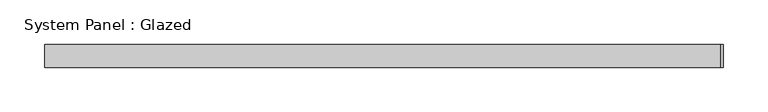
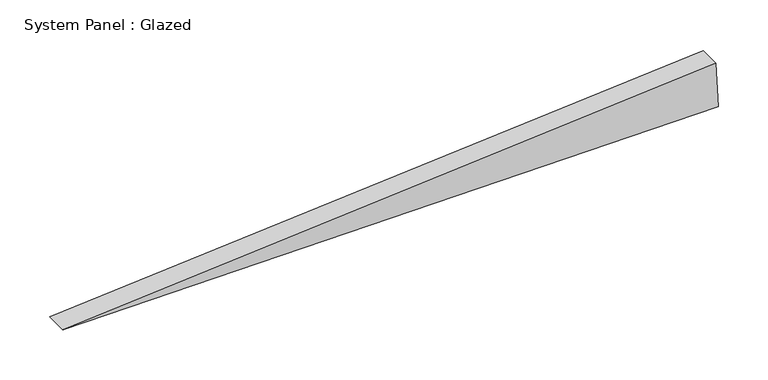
"""IFC4 building model written with IfcOpenShell, lengths in millimetres: plate geometry, System Panel : Glazed."""

import ifcopenshell
import ifcopenshell.guid

model = None  # the IFC model being written
_history = None  # IfcOwnerHistory: only IFC2X3 demands one
_inside = {}  # id of a spatial element -> (the spatial element, [elements in it])
_under = {}  # id of a project, library or spatial element -> (it, [spatial elements below it])
_declared = {}  # id of a project -> (the project, [libraries it declares])
_typed = {}  # id of a type object -> (the type object, [elements of that type])
_made_of = {}  # id of a material, layer set ... -> (it, [elements and type objects made of it])


def new_model(schema):
    """Start an empty IFC model of exactly this schema.

    Asked for "IFC4X3", IfcOpenShell would pick the latest addendum, in which some entities
    have other attributes; the version numbers below select the first issue.
    IFC2X3 requires an IfcOwnerHistory on every rooted entity: one is made here for all.
    """
    global model, _history
    if schema == "IFC4X3":
        model = ifcopenshell.file(schema_version=(4, 3, 0, 0))
    else:
        model = ifcopenshell.file(schema=schema)
    _inside.clear()
    _under.clear()
    _declared.clear()
    _typed.clear()
    _made_of.clear()
    _history = None
    if model.schema == "IFC2X3":
        org = make("IfcOrganization", Name="unknown")
        user = make(
            "IfcPersonAndOrganization",
            ThePerson=make("IfcPerson", FamilyName="unknown"),
            TheOrganization=org,
        )
        app = make(
            "IfcApplication",
            ApplicationDeveloper=org,
            Version="unknown",
            ApplicationFullName="unknown",
            ApplicationIdentifier="unknown",
        )
        _history = make(
            "IfcOwnerHistory",
            OwningUser=user,
            OwningApplication=app,
            ChangeAction="ADDED",
            CreationDate=0,
        )
    return model


def make(cls, **values):
    """One entity of the class cls with the attributes given. An attribute that is None is left unset."""
    return model.create_entity(
        cls, **{name: value for name, value in values.items() if value is not None}
    )


def rooted(cls, **values):
    """An entity with a GlobalId (a new one), such as an element, a storey or a relation."""
    return make(cls, GlobalId=ifcopenshell.guid.new(), OwnerHistory=_history, **values)


def si_unit(unit_type, name, prefix=None):
    """IfcSIUnit, for example si_unit("LENGTHUNIT", "METRE", prefix="MILLI")."""
    return make("IfcSIUnit", UnitType=unit_type, Prefix=prefix, Name=name)


def assignment(units):
    """IfcUnitAssignment: the units of a project."""
    return None if units is None else make("IfcUnitAssignment", Units=units)


def point(xyz):
    """IfcCartesianPoint."""
    return None if xyz is None else make("IfcCartesianPoint", Coordinates=xyz)


def direction(xyz):
    """IfcDirection."""
    return None if xyz is None else make("IfcDirection", DirectionRatios=xyz)


def frame(location, z_axis=None, x_axis=None):
    """IfcAxis2Placement3D, a coordinate frame: its origin and axes. An axis left out is left unset."""
    return make(
        "IfcAxis2Placement3D",
        Location=point(location),
        Axis=direction(z_axis),
        RefDirection=direction(x_axis),
    )


def origin():
    """The frame at (0, 0, 0) with its axes left unset."""
    return frame((0.0, 0.0, 0.0))


def place(relative_to, where):
    """IfcLocalPlacement: puts the frame where relative to a parent placement (None: the world)."""
    return make(
        "IfcLocalPlacement", PlacementRelTo=relative_to, RelativePlacement=where
    )


def context(
    kind, dimensions, precision=None, world=None, true_north=None, identifier=None
):
    """IfcGeometricRepresentationContext, for example the 3D "Model" context."""
    return make(
        "IfcGeometricRepresentationContext",
        ContextIdentifier=identifier,
        ContextType=kind,
        CoordinateSpaceDimension=dimensions,
        Precision=precision,
        WorldCoordinateSystem=world,
        TrueNorth=true_north,
    )


def project(units=None, contexts=None):
    """IfcProject with its units and contexts."""
    return rooted(
        "IfcProject",
        Name="project",
        RepresentationContexts=contexts,
        UnitsInContext=assignment(units),
    )


def spatial(cls, under=None, at=None, **own):
    """A site, building, storey or space (cls), placed at a placement, below another one or the project."""
    s = rooted(cls, ObjectPlacement=at, **own)
    if under is not None:
        _under.setdefault(under.id(), (under, []))[1].append(s)
    return s


def faces_of(points, faces, orient=None, outer=None):
    """IfcFace entities. A face is a list of loops; a loop is a list of indices into points, from 0.

    orient and outer hold one flag for each loop. By default every Orientation is true, the
    first loop of a face is its IfcFaceOuterBound and the others are IfcFaceBound.
    """
    made = []
    for i, loops in enumerate(faces):
        bounds = []
        for j, loop in enumerate(loops):
            is_outer = j == 0 if outer is None else outer[i][j]
            bounds.append(
                make(
                    "IfcFaceOuterBound" if is_outer else "IfcFaceBound",
                    Bound=make("IfcPolyLoop", Polygon=[points[k] for k in loop]),
                    Orientation=True if orient is None else orient[i][j],
                )
            )
        made.append(make("IfcFace", Bounds=bounds))
    return made


def faceted_brep(points, faces, orient=None, outer=None, voids=None):
    """IfcFacetedBrep: a solid bounded by flat faces; with voids (closed shells), ...WithVoids."""
    shared = [point(p) for p in points]
    hull = make("IfcClosedShell", CfsFaces=faces_of(shared, faces, orient, outer))
    if voids is None:
        return make("IfcFacetedBrep", Outer=hull)
    return make(
        "IfcFacetedBrepWithVoids",
        Outer=hull,
        Voids=[
            make(cls, CfsFaces=faces_of(shared, fs, o, b)) for cls, fs, o, b in voids
        ],
    )


def shape(context_of_items, identifier, shape_type, items):
    """IfcShapeRepresentation: the items that make up one representation, for example the "Body"."""
    return make(
        "IfcShapeRepresentation",
        ContextOfItems=context_of_items,
        RepresentationIdentifier=identifier,
        RepresentationType=shape_type,
        Items=items,
    )


def source(mapping_origin, context_of_items, identifier, shape_type, items):
    """IfcRepresentationMap: a shape defined once, which mapped items show again and again."""
    return make(
        "IfcRepresentationMap",
        MappingOrigin=mapping_origin,
        MappedRepresentation=shape(context_of_items, identifier, shape_type, items),
    )


def transform(
    local_origin,
    x_axis=None,
    y_axis=None,
    z_axis=None,
    scale=None,
    scale2=None,
    scale3=None,
    uniform=True,
):
    """IfcCartesianTransformationOperator3D, or its non-uniform kind. x_axis, y_axis, z_axis: its Axis1, 2, 3."""
    if uniform:
        return make(
            "IfcCartesianTransformationOperator3D",
            Axis1=direction(x_axis),
            Axis2=direction(y_axis),
            LocalOrigin=point(local_origin),
            Scale=scale,
            Axis3=direction(z_axis),
        )
    return make(
        "IfcCartesianTransformationOperator3DnonUniform",
        Axis1=direction(x_axis),
        Axis2=direction(y_axis),
        LocalOrigin=point(local_origin),
        Scale=scale,
        Axis3=direction(z_axis),
        Scale2=scale2,
        Scale3=scale3,
    )


def mapped(mapping_source, mapping_target):
    """IfcMappedItem: shows the shape of a source again, moved by a transform."""
    return make(
        "IfcMappedItem", MappingSource=mapping_source, MappingTarget=mapping_target
    )


def made_of(thing, what):
    """Note that an element or type object is made of a material, layer set ...; save() writes the relation."""
    if what is not None:
        _made_of.setdefault(what.id(), (what, []))[1].append(thing)
    return thing


def element(
    cls,
    number,
    at=None,
    inside=None,
    cuts=None,
    type_object=None,
    material=None,
    context=None,
    identifier="Body",
    shape_type=None,
    held_by="IfcProductDefinitionShape",
    body=None,
    shapes=None,
    **own,
):
    """One element of the class cls, such as IfcWall. Its Tag is "e" and its number.

    at: its placement. inside: the storey or other place that contains it. cuts: it is an
    opening in that element (IfcRelVoidsElement). A single representation is given by context,
    identifier, shape_type and body (its items); several are given by shapes. held_by: the class
    of the entity that holds the representations. save() writes the other relations.
    """
    e = rooted(cls, Tag="e%d" % number, ObjectPlacement=at, **own)
    if body is not None:
        shapes = [shape(context, identifier, shape_type, body)]
    if shapes is not None:
        e.Representation = make(held_by, Representations=shapes)
    if inside is not None:
        _inside.setdefault(inside.id(), (inside, []))[1].append(e)
    if cuts is not None:
        rooted(
            "IfcRelVoidsElement", RelatingBuildingElement=cuts, RelatedOpeningElement=e
        )
    if type_object is not None:
        _typed.setdefault(type_object.id(), (type_object, []))[1].append(e)
    return made_of(e, material)


def aggregate(whole, parts):
    """IfcRelAggregates: a whole, such as a stair, and the parts it consists of."""
    return rooted("IfcRelAggregates", RelatingObject=whole, RelatedObjects=parts)


def save(model, path):
    """Write the relations noted so far, then the file.

    IfcRelAggregates (storeys below a building ...), IfcRelContainedInSpatialStructure (elements
    in a storey), IfcRelDefinesByType, IfcRelAssociatesMaterial and IfcRelDeclares: one each for
    every whole, place, type object, material and project.
    """
    for whole, parts in _under.values():
        aggregate(whole, parts)
    for where, things in _inside.values():
        rooted(
            "IfcRelContainedInSpatialStructure",
            RelatedElements=things,
            RelatingStructure=where,
        )
    for kind, things in _typed.values():
        rooted("IfcRelDefinesByType", RelatedObjects=things, RelatingType=kind)
    for what, things in _made_of.values():
        rooted("IfcRelAssociatesMaterial", RelatedObjects=things, RelatingMaterial=what)
    for by, libraries in _declared.values():
        rooted("IfcRelDeclares", RelatingContext=by, RelatedDefinitions=libraries)
    model.write(path)


def system_panel_glazed_5e8676ea(model_context):
    return source(origin(), model_context, "Body", "Brep", [
        faceted_brep([(-378.6817227, -44.45, 0.0), (378.6965957, -44.45, 8.0360474), (376.2215815, -44.45, 61.8460447), (-378.6965957, -19.05, 0.3233578), (376.2215815, -19.05, 61.8460447), (378.6965957, -19.05, 8.0360474)], [[[0, 1, 2]], [[3, 4, 5]], [[1, 0, 3, 5]], [[2, 1, 5, 4]], [[0, 2, 4, 3]]]),
    ])


if __name__ == "__main__":
    model = new_model("IFC4")
    model_context = context("Model", 3, world=origin())
    ifc_project = project(units=[si_unit("LENGTHUNIT", "METRE", prefix="MILLI")], contexts=[model_context])
    site = spatial("IfcSite", under=ifc_project)
    building = spatial("IfcBuilding", under=site)
    placement = place(None, origin())
    system_panel_glazed_shape = system_panel_glazed_5e8676ea(model_context)
    element("IfcPlate", 1, ObjectType="System Panel : Glazed", at=placement, inside=building, context=model_context, shape_type="MappedRepresentation", body=[
        mapped(system_panel_glazed_shape, transform((0.0, 0.0, 0.0), x_axis=(1.0, 0.0, 0.0), y_axis=(0.0, 1.0, 0.0), z_axis=(0.0, 0.0, 1.0))),
    ])
    save(model, "model.ifc")
